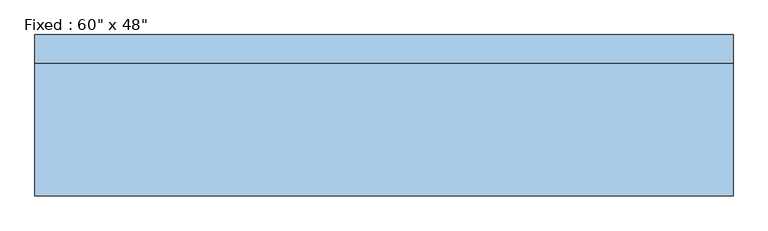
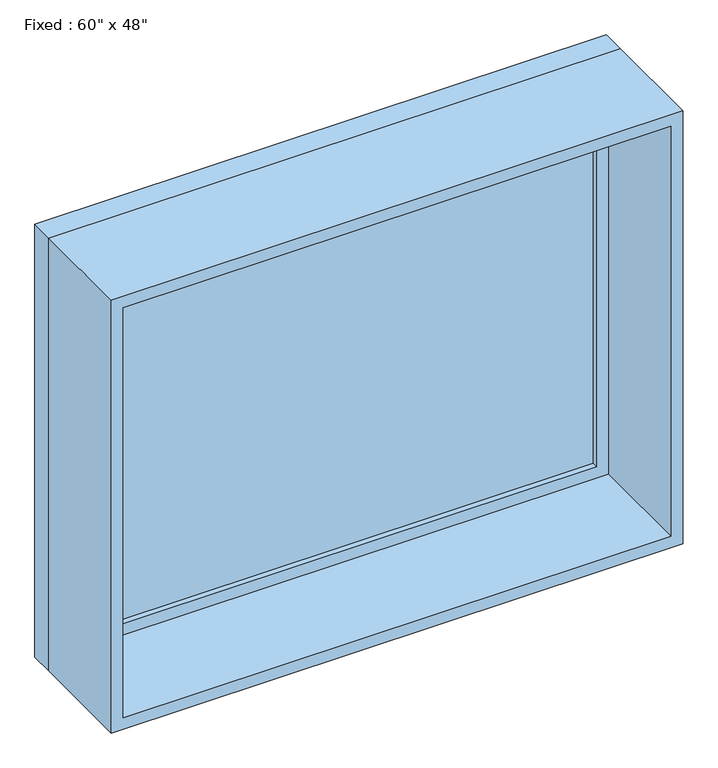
"""IFC4 building model written with IfcOpenShell, lengths in millimetres: window geometry."""

from ifc_helpers import new_model, si_unit, frame, origin, place, context, project, spatial, polyline, outline, extrude, source, transform, mapped, element, save


def window_5d26cbe1(model_context):
    return source(origin(), model_context, "Body", "SweptSolid", [
        extrude(outline(polyline([(660.4, 128.5875), (-736.6, 128.5875), (-736.6, 141.2875), (660.4, 141.2875), (660.4, 128.5875)])), frame((0.0, 0.0, 977.9), z_axis=(0.0, 0.0, 1.0), x_axis=(1.0, 0.0, 0.0)), (0.0, 0.0, 1.0), 1092.2),
        extrude(outline(polyline([(2114.55, -781.05), (933.45, -781.05), (933.45, 704.85), (2114.55, 704.85), (2114.55, -781.05)]), holes=[polyline([(2070.1, -736.6), (2070.1, 660.4), (977.9, 660.4), (977.9, -736.6), (2070.1, -736.6)])]), frame((0.0, 112.7125, 0.0), z_axis=(0.0, 1.0, 0.0), x_axis=(0.0, 0.0, 1.0)), (0.0, 0.0, 1.0), 44.45),
        extrude(outline(polyline([(2133.6, -800.1), (914.4, -800.1), (914.4, 723.9), (2133.6, 723.9), (2133.6, -800.1)]), holes=[polyline([(2101.85, -768.35), (2101.85, 692.15), (946.15, 692.15), (946.15, -768.35), (2101.85, -768.35)])]), frame((0.0, -176.2125, 0.0), z_axis=(0.0, 1.0, 0.0), x_axis=(0.0, 0.0, 1.0)), (0.0, 0.0, 1.0), 288.925),
        extrude(outline(polyline([(2133.6, 723.9), (2133.6, -800.1), (914.4, -800.1), (914.4, 723.9), (2133.6, 723.9)]), holes=[polyline([(2114.55, 704.85), (933.45, 704.85), (933.45, -781.05), (2114.55, -781.05), (2114.55, 704.85)])]), frame((0.0, 112.7125, 0.0), z_axis=(0.0, 1.0, 0.0), x_axis=(0.0, 0.0, 1.0)), (0.0, 0.0, 1.0), 63.5),
    ])


if __name__ == "__main__":
    model = new_model("IFC4")
    model_context = context("Model", 3, world=origin())
    ifc_project = project(units=[si_unit("LENGTHUNIT", "METRE", prefix="MILLI")], contexts=[model_context])
    site = spatial("IfcSite", under=ifc_project)
    building = spatial("IfcBuilding", under=site)
    placement = place(None, origin())
    window_shape = window_5d26cbe1(model_context)
    element("IfcWindow", 1, ObjectType="Fixed : 60\" x 48\"", at=placement, inside=building, context=model_context, shape_type="MappedRepresentation", body=[
        mapped(window_shape, transform((0.0, 0.0, 0.0), x_axis=(1.0, 0.0, 0.0), y_axis=(0.0, 1.0, 0.0), z_axis=(0.0, 0.0, 1.0))),
    ])
    save(model, "model.ifc")
